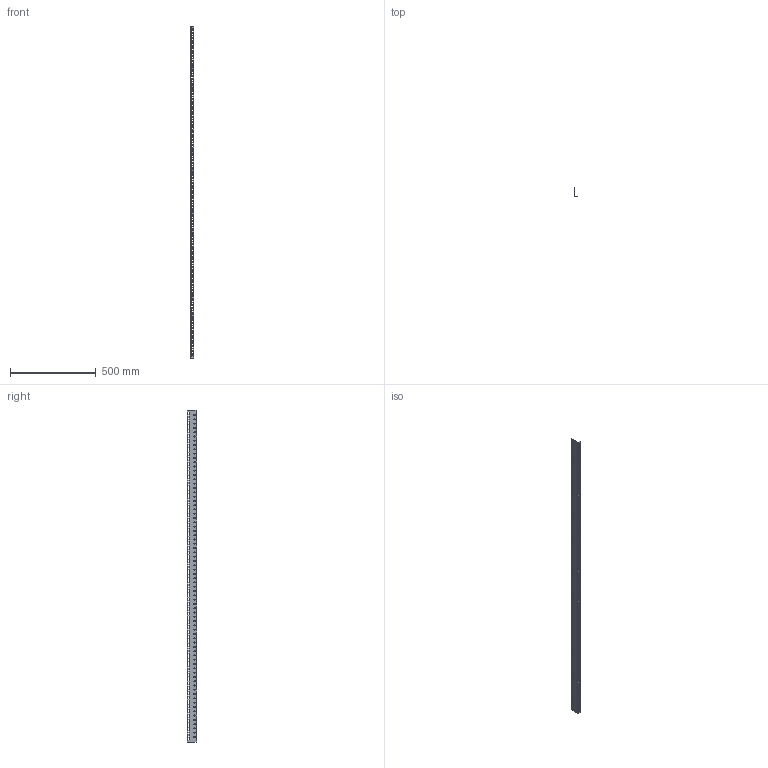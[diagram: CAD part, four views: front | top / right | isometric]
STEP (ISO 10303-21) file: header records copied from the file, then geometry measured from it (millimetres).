
FILE_DESCRIPTION (( 'STEP AP203' ), '1' );
FILE_NAME ('MG 200 IT Ðåéêà âåðòèêàëüíàÿ 19''''.STEP', '2017-11-19T08:04:39', ( 'user' ), ( '' ), 'SwSTEP 2.0', 'SolidWorks 2012', '' );
FILE_SCHEMA (( 'CONFIG_CONTROL_DESIGN' ));
Length unit declared in the file: millimetre
Products named in the file (1): MG 200 IT Ðåéêà âåðòèêàëüíàÿ 19''''
Bounding box: 18.5 x 54.5 x 1933 mm (x, y, z)
Volume: 217759.6 mm3; surface area: 248928.3 mm2
Topology: 1 solids, 1 shells, 2406 faces, 7120 edges, 4632 vertices
Faces by surface type: cylinder 1278, plane 1044, bspline 84
Full cylindrical faces by diameter (mm): 6.5 x76
Entity records: 86653 total; most frequent: CARTESIAN_POINT 19879, ORIENTED_EDGE 14088, DIRECTION 13742, EDGE_CURVE 7044, AXIS2_PLACEMENT_3D 4711, VERTEX_POINT 4632, LINE 4320, VECTOR 4320
